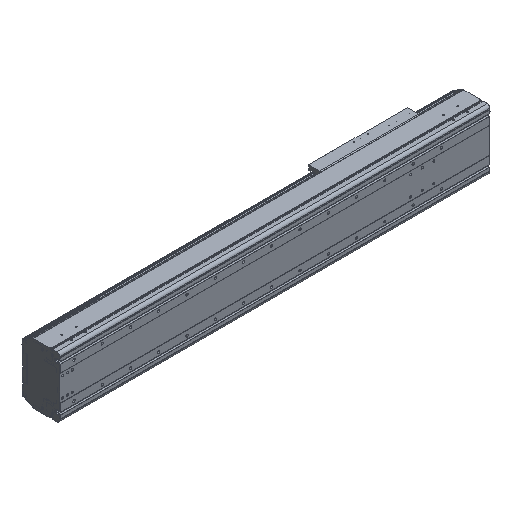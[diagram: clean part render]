
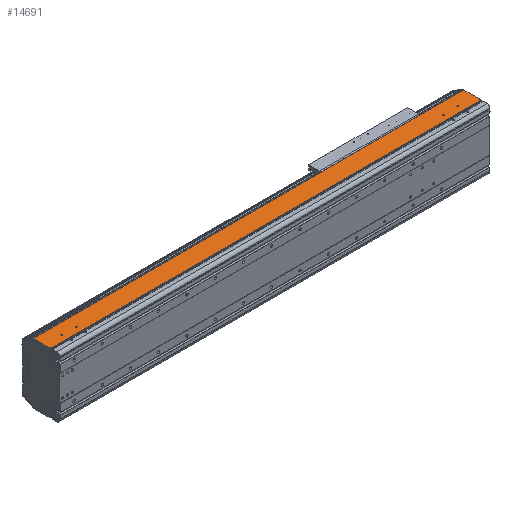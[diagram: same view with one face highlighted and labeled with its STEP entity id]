
A CAD part, isometric view. The second image highlights one B-rep face of the part: STEP entity #14691.
In plain terms, the highlighted planar face has unit normal (0, 0, 1).
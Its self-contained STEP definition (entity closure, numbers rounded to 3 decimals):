
#1814=DIRECTION('',(0.,-1.,0.));
#1815=VECTOR('',#1814,2.55);
#1816=CARTESIAN_POINT('',(0.,34.65,107.));
#1817=LINE('',#1816,#1815);
#2297=DIRECTION('',(1.,0.,0.));
#2298=VECTOR('',#2297,2.);
#2299=CARTESIAN_POINT('',(-1521.,34.65,107.));
#2300=LINE('',#2299,#2298);
#2301=CARTESIAN_POINT('',(-59.5,54.,107.));
#2302=DIRECTION('',(0.,0.,-1.));
#2303=DIRECTION('',(1.,0.,0.));
#2304=AXIS2_PLACEMENT_3D('',#2301,#2302,#2303);
#2306=CARTESIAN_POINT('',(-59.5,54.,107.));
#2307=DIRECTION('',(0.,0.,-1.));
#2308=DIRECTION('',(-1.,0.,0.));
#2309=AXIS2_PLACEMENT_3D('',#2306,#2307,#2308);
#2311=CARTESIAN_POINT('',(-109.5,54.,107.));
#2312=DIRECTION('',(0.,0.,-1.));
#2313=DIRECTION('',(1.,0.,0.));
#2314=AXIS2_PLACEMENT_3D('',#2311,#2312,#2313);
#2316=CARTESIAN_POINT('',(-109.5,54.,107.));
#2317=DIRECTION('',(0.,0.,-1.));
#2318=DIRECTION('',(-1.,0.,0.));
#2319=AXIS2_PLACEMENT_3D('',#2316,#2317,#2318);
#2321=CARTESIAN_POINT('',(-1459.5,54.,107.));
#2322=DIRECTION('',(0.,0.,-1.));
#2323=DIRECTION('',(1.,0.,0.));
#2324=AXIS2_PLACEMENT_3D('',#2321,#2322,#2323);
#2326=CARTESIAN_POINT('',(-1459.5,54.,107.));
#2327=DIRECTION('',(0.,0.,-1.));
#2328=DIRECTION('',(-1.,0.,0.));
#2329=AXIS2_PLACEMENT_3D('',#2326,#2327,#2328);
#2331=CARTESIAN_POINT('',(-1409.5,54.,107.));
#2332=DIRECTION('',(0.,0.,-1.));
#2333=DIRECTION('',(1.,0.,0.));
#2334=AXIS2_PLACEMENT_3D('',#2331,#2332,#2333);
#2336=CARTESIAN_POINT('',(-1409.5,54.,107.));
#2337=DIRECTION('',(0.,0.,-1.));
#2338=DIRECTION('',(-1.,0.,0.));
#2339=AXIS2_PLACEMENT_3D('',#2336,#2337,#2338);
#2341=DIRECTION('',(0.,-1.,0.));
#2342=VECTOR('',#2341,2.55);
#2343=CARTESIAN_POINT('',(-1519.,34.65,107.));
#2344=LINE('',#2343,#2342);
#2345=DIRECTION('',(0.,-1.,0.));
#2346=VECTOR('',#2345,58.85);
#2347=CARTESIAN_POINT('',(-1521.,93.5,107.));
#2348=LINE('',#2347,#2346);
#2349=DIRECTION('',(0.,1.,0.));
#2350=VECTOR('',#2349,58.85);
#2351=CARTESIAN_POINT('',(2.,34.65,107.));
#2352=LINE('',#2351,#2350);
#2353=DIRECTION('',(1.,0.,0.));
#2354=VECTOR('',#2353,1519.);
#2355=CARTESIAN_POINT('',(-1519.,32.1,107.));
#2356=LINE('',#2355,#2354);
#2461=DIRECTION('',(-1.,0.,0.));
#2462=VECTOR('',#2461,1523.);
#2463=CARTESIAN_POINT('',(2.,93.5,107.));
#2464=LINE('',#2463,#2462);
#7951=DIRECTION('',(1.,0.,0.));
#7952=VECTOR('',#7951,2.);
#7953=CARTESIAN_POINT('',(0.,34.65,107.));
#7954=LINE('',#7953,#7952);
#9129=CARTESIAN_POINT('',(-1521.,34.65,107.));
#9130=VERTEX_POINT('',#9129);
#9131=CARTESIAN_POINT('',(-1521.,93.5,107.));
#9132=VERTEX_POINT('',#9131);
#9361=CARTESIAN_POINT('',(-1519.,32.1,107.));
#9362=VERTEX_POINT('',#9361);
#9669=CARTESIAN_POINT('',(0.,32.1,107.));
#9670=VERTEX_POINT('',#9669);
#9671=CARTESIAN_POINT('',(-57.,54.,107.));
#9672=CARTESIAN_POINT('',(-62.,54.,107.));
#9673=VERTEX_POINT('',#9671);
#9674=VERTEX_POINT('',#9672);
#9675=CARTESIAN_POINT('',(-107.,54.,107.));
#9676=CARTESIAN_POINT('',(-112.,54.,107.));
#9677=VERTEX_POINT('',#9675);
#9678=VERTEX_POINT('',#9676);
#9679=CARTESIAN_POINT('',(-1457.,54.,107.));
#9680=CARTESIAN_POINT('',(-1462.,54.,107.));
#9681=VERTEX_POINT('',#9679);
#9682=VERTEX_POINT('',#9680);
#9683=CARTESIAN_POINT('',(-1407.,54.,107.));
#9684=CARTESIAN_POINT('',(-1412.,54.,107.));
#9685=VERTEX_POINT('',#9683);
#9686=VERTEX_POINT('',#9684);
#10530=CARTESIAN_POINT('',(2.,34.65,107.));
#10531=VERTEX_POINT('',#10530);
#10532=CARTESIAN_POINT('',(2.,93.5,107.));
#10533=VERTEX_POINT('',#10532);
#10984=CARTESIAN_POINT('',(0.,34.65,107.));
#10985=VERTEX_POINT('',#10984);
#11064=CARTESIAN_POINT('',(-1519.,34.65,107.));
#11065=VERTEX_POINT('',#11064);
#14649=CARTESIAN_POINT('',(-759.5,62.8,107.));
#14650=DIRECTION('',(0.,0.,1.));
#14651=DIRECTION('',(0.,-1.,0.));
#14652=AXIS2_PLACEMENT_3D('',#14649,#14650,#14651);
#14653=PLANE('',#14652);
#14654=ORIENTED_EDGE('',*,*,#12135,.F.);
#14655=ORIENTED_EDGE('',*,*,#14644,.F.);
#14656=ORIENTED_EDGE('',*,*,#12764,.F.);
#14658=ORIENTED_EDGE('',*,*,#14657,.F.);
#14659=ORIENTED_EDGE('',*,*,#11872,.F.);
#14661=ORIENTED_EDGE('',*,*,#14660,.F.);
#14662=ORIENTED_EDGE('',*,*,#14252,.T.);
#14664=ORIENTED_EDGE('',*,*,#14663,.F.);
#14665=EDGE_LOOP('',(#14654,#14655,#14656,#14658,#14659,#14661,#14662,#14664));
#14666=FACE_OUTER_BOUND('',#14665,.F.);
#14668=ORIENTED_EDGE('',*,*,#14667,.F.);
#14670=ORIENTED_EDGE('',*,*,#14669,.F.);
#14671=EDGE_LOOP('',(#14668,#14670));
#14672=FACE_BOUND('',#14671,.F.);
#14674=ORIENTED_EDGE('',*,*,#14673,.F.);
#14676=ORIENTED_EDGE('',*,*,#14675,.F.);
#14677=EDGE_LOOP('',(#14674,#14676));
#14678=FACE_BOUND('',#14677,.F.);
#14680=ORIENTED_EDGE('',*,*,#14679,.F.);
#14682=ORIENTED_EDGE('',*,*,#14681,.F.);
#14683=EDGE_LOOP('',(#14680,#14682));
#14684=FACE_BOUND('',#14683,.F.);
#14686=ORIENTED_EDGE('',*,*,#14685,.F.);
#14688=ORIENTED_EDGE('',*,*,#14687,.F.);
#14689=EDGE_LOOP('',(#14686,#14688));
#14690=FACE_BOUND('',#14689,.F.);
#14691=ADVANCED_FACE('',(#14666,#14672,#14678,#14684,#14690),#14653,.T.);
#2305=CIRCLE('',#2304,2.5);
#2310=CIRCLE('',#2309,2.5);
#2315=CIRCLE('',#2314,2.5);
#2320=CIRCLE('',#2319,2.5);
#2325=CIRCLE('',#2324,2.5);
#2330=CIRCLE('',#2329,2.5);
#2335=CIRCLE('',#2334,2.5);
#2340=CIRCLE('',#2339,2.5);
#11872=EDGE_CURVE('',#10531,#10533,#2352,.T.);
#12135=EDGE_CURVE('',#11065,#9362,#2344,.T.);
#12764=EDGE_CURVE('',#9132,#9130,#2348,.T.);
#14252=EDGE_CURVE('',#10985,#9670,#1817,.T.);
#14644=EDGE_CURVE('',#9130,#11065,#2300,.T.);
#14657=EDGE_CURVE('',#10533,#9132,#2464,.T.);
#14660=EDGE_CURVE('',#10985,#10531,#7954,.T.);
#14663=EDGE_CURVE('',#9362,#9670,#2356,.T.);
#14667=EDGE_CURVE('',#9677,#9678,#2315,.T.);
#14669=EDGE_CURVE('',#9678,#9677,#2320,.T.);
#14673=EDGE_CURVE('',#9681,#9682,#2325,.T.);
#14675=EDGE_CURVE('',#9682,#9681,#2330,.T.);
#14679=EDGE_CURVE('',#9685,#9686,#2335,.T.);
#14681=EDGE_CURVE('',#9686,#9685,#2340,.T.);
#14685=EDGE_CURVE('',#9673,#9674,#2305,.T.);
#14687=EDGE_CURVE('',#9674,#9673,#2310,.T.);
